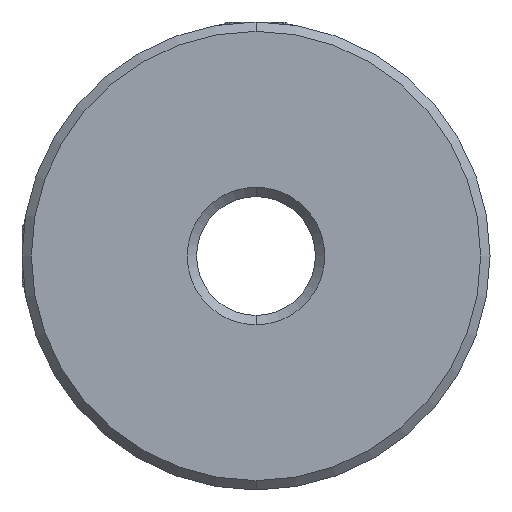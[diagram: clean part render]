
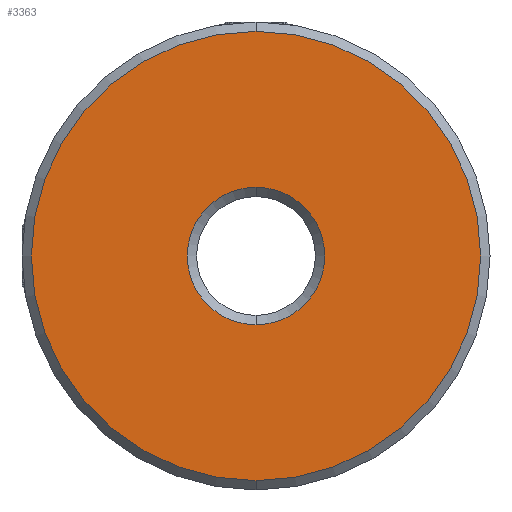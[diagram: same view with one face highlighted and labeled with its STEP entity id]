
A CAD part, front view. The second image highlights one B-rep face of the part: STEP entity #3363.
In plain terms, the highlighted planar face has unit normal (0, -1, 0).
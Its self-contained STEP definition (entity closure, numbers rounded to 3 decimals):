
#208 = AXIS2_PLACEMENT_3D ( 'NONE', #1956, #3399, #286 ) ;
#244 = DIRECTION ( 'NONE',  ( 0., 0., 1. ) ) ;
#276 = DIRECTION ( 'NONE',  ( 0., 1., 0. ) ) ;
#286 = DIRECTION ( 'NONE',  ( 0., 0., 1. ) ) ;
#506 = CARTESIAN_POINT ( 'NONE',  ( -10.188, -0.277, 0.046 ) ) ;
#546 = DIRECTION ( 'NONE',  ( 0., 1., 0. ) ) ;
#685 = VERTEX_POINT ( 'NONE', #2978 ) ;
#819 = CIRCLE ( 'NONE', #2237, 3.675 ) ;
#821 = FACE_BOUND ( 'NONE', #3181, .T. ) ;
#840 = CIRCLE ( 'NONE', #208, 12. ) ;
#887 = DIRECTION ( 'NONE',  ( 0., 1., 0. ) ) ;
#950 = CIRCLE ( 'NONE', #3023, 12. ) ;
#1002 = EDGE_CURVE ( 'NONE', #1520, #3639, #950, .T. ) ;
#1071 = PLANE ( 'NONE',  #3179 ) ;
#1110 = FACE_OUTER_BOUND ( 'NONE', #3201, .T. ) ;
#1183 = EDGE_CURVE ( 'NONE', #1641, #685, #3606, .T. ) ;
#1468 = CARTESIAN_POINT ( 'NONE',  ( -10.188, -0.277, 12.046 ) ) ;
#1520 = VERTEX_POINT ( 'NONE', #1468 ) ;
#1598 = CARTESIAN_POINT ( 'NONE',  ( -10.188, -0.277, -11.954 ) ) ;
#1641 = VERTEX_POINT ( 'NONE', #2425 ) ;
#1909 = ORIENTED_EDGE ( 'NONE', *, *, #2540, .T. ) ;
#1956 = CARTESIAN_POINT ( 'NONE',  ( -10.188, -0.277, 0.046 ) ) ;
#1991 = DIRECTION ( 'NONE',  ( 0., -1., 0. ) ) ;
#2226 = ORIENTED_EDGE ( 'NONE', *, *, #1183, .T. ) ;
#2237 = AXIS2_PLACEMENT_3D ( 'NONE', #2554, #887, #2335 ) ;
#2309 = ORIENTED_EDGE ( 'NONE', *, *, #2989, .T. ) ;
#2335 = DIRECTION ( 'NONE',  ( 0., 0., 1. ) ) ;
#2425 = CARTESIAN_POINT ( 'NONE',  ( -10.188, -0.277, -3.629 ) ) ;
#2540 = EDGE_CURVE ( 'NONE', #3639, #1520, #840, .T. ) ;
#2554 = CARTESIAN_POINT ( 'NONE',  ( -10.188, -0.277, 0.046 ) ) ;
#2723 = AXIS2_PLACEMENT_3D ( 'NONE', #506, #546, #3645 ) ;
#2774 = CARTESIAN_POINT ( 'NONE',  ( -10.188, -0.277, 0.046 ) ) ;
#2978 = CARTESIAN_POINT ( 'NONE',  ( -10.188, -0.277, 3.721 ) ) ;
#2989 = EDGE_CURVE ( 'NONE', #685, #1641, #819, .T. ) ;
#3023 = AXIS2_PLACEMENT_3D ( 'NONE', #2774, #1991, #244 ) ;
#3069 = ORIENTED_EDGE ( 'NONE', *, *, #1002, .T. ) ;
#3179 = AXIS2_PLACEMENT_3D ( 'NONE', #3350, #276, #3314 ) ;
#3181 = EDGE_LOOP ( 'NONE', ( #2226, #2309 ) ) ;
#3201 = EDGE_LOOP ( 'NONE', ( #3069, #1909 ) ) ;
#3314 = DIRECTION ( 'NONE',  ( 0., 0., 1. ) ) ;
#3350 = CARTESIAN_POINT ( 'NONE',  ( -10.188, -0.277, 0.046 ) ) ;
#3363 = ADVANCED_FACE ( 'NONE', ( #1110, #821 ), #1071, .F. ) ;
#3399 = DIRECTION ( 'NONE',  ( 0., -1., 0. ) ) ;
#3606 = CIRCLE ( 'NONE', #2723, 3.675 ) ;
#3639 = VERTEX_POINT ( 'NONE', #1598 ) ;
#3645 = DIRECTION ( 'NONE',  ( 0., 0., 1. ) ) ;
